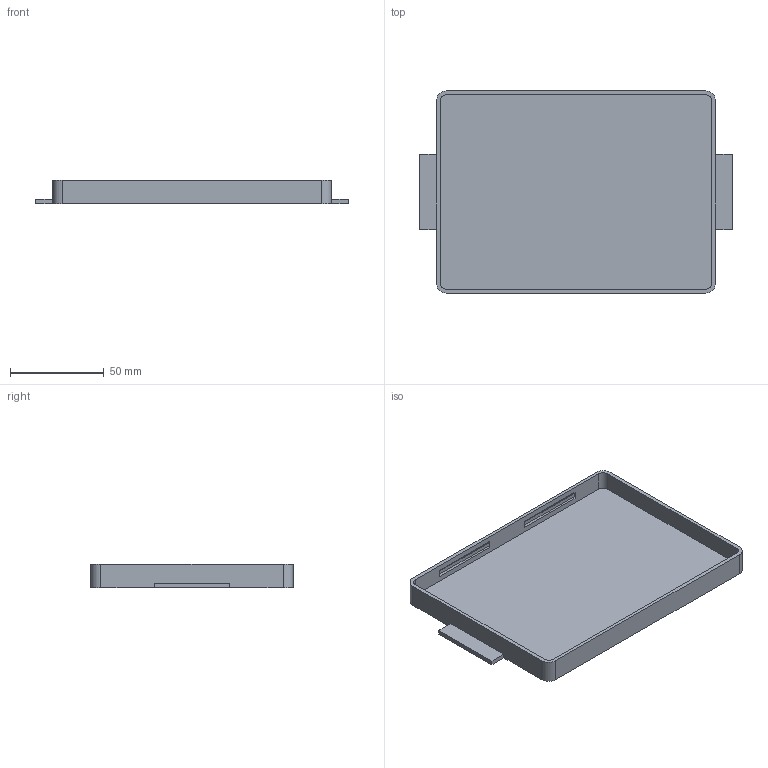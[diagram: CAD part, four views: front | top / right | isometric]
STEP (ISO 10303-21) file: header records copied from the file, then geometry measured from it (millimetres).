
FILE_DESCRIPTION(('Open CASCADE Model'),'2;1');
FILE_NAME('Open CASCADE Shape Model','2026-11-03T10:24:08',('Author'),( 'Open CASCADE'),'Open CASCADE STEP processor 8.0','build123d', 'Unknown');
FILE_SCHEMA(('AUTOMOTIVE_DESIGN { 1 0 10303 214 1 1 1 1 }'));
Length unit declared in the file: millimetre
Products named in the file (2): =>[0:1:1:2]; COMPOUND
Assembly tree (1 placements, depth 2):
  =>[0:1:1:2]
    COMPOUND
Bounding box: 166.5 x 107.5 x 12.4 mm (x, y, z)
Volume: 49430.7 mm3; surface area: 45161.4 mm2
Topology: 1 solids, 1 shells, 3347 faces, 9861 edges, 6574 vertices
Faces by surface type: plane 3339, cylinder 8
Entity records: 230830 total; most frequent: CARTESIAN_POINT 46132, DIRECTION 29751, LINE 23021, VECTOR 23021, ORIENTED_EDGE 19722, PCURVE 19722, DEFINITIONAL_REPRESENTATION 19722, EDGE_CURVE 9861
